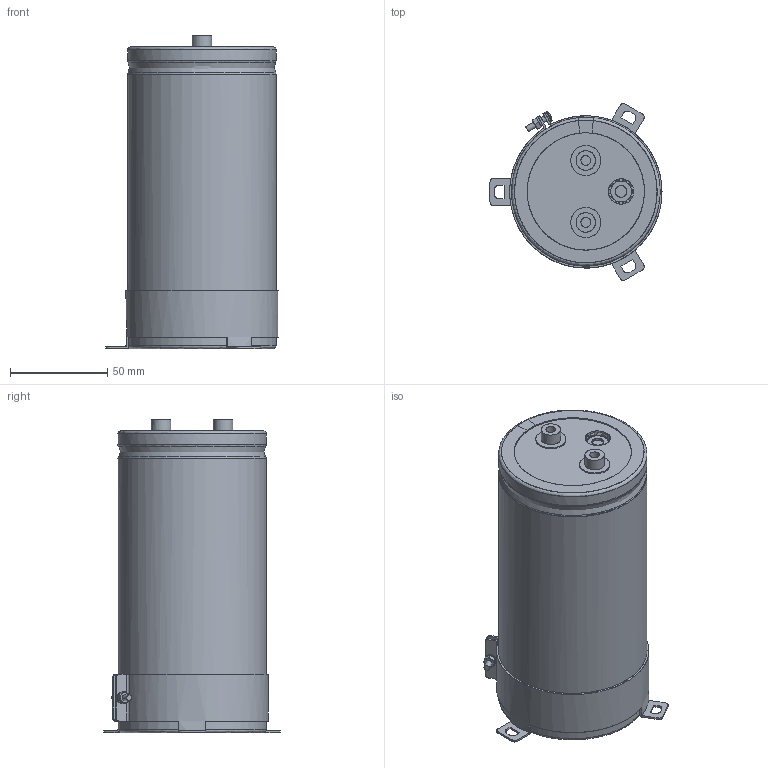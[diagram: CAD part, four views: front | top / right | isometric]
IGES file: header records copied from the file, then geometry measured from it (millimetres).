
Start section: JAMA-IS VERSION  1.0
Bounding box: 88.3 x 90.75 x 161 mm (x, y, z)
Surface area: 141440.7 mm2 (no closed solid volume)
Topology: 0 solids, 0 shells, 259 faces, 4448 edges, 4417 vertices
Faces by surface type: bspline 259
